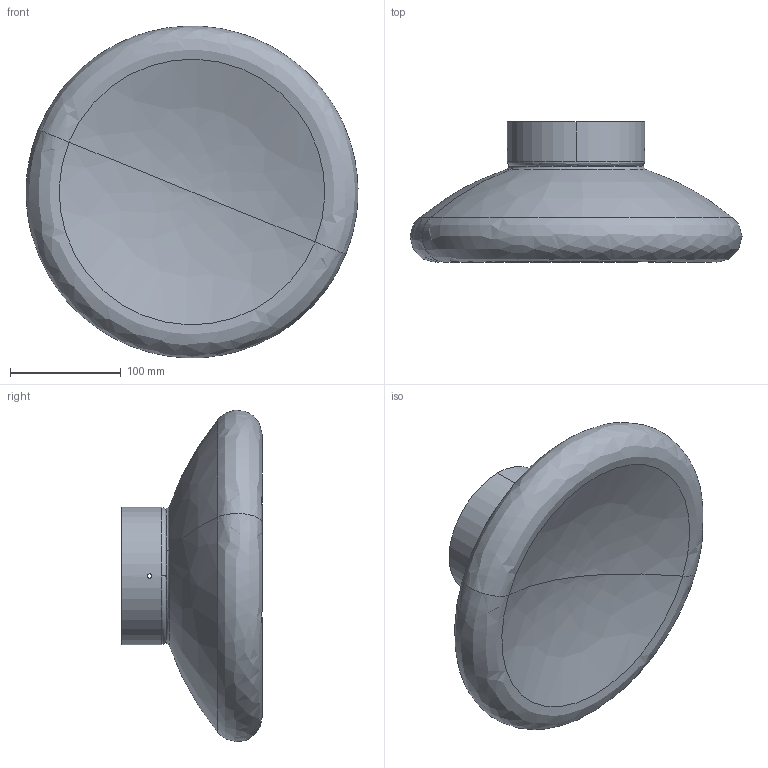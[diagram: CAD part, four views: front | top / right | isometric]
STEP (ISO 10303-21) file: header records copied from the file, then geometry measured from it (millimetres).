
FILE_DESCRIPTION (( 'STEP AP203' ), '1' );
FILE_NAME ('KEYRA_30P-PL_STEP.STEP', '2016-01-19T10:10:58', ( 'admin' ), ( '' ), 'SwSTEP 2.0', 'SolidWorks 2015', '' );
FILE_SCHEMA (( 'CONFIG_CONTROL_DESIGN' ));
Length unit declared in the file: millimetre
Products named in the file (2): KEYRA_30P-PL_STEP
Bounding box: 299.94 x 126.55 x 299.52 mm (x, y, z)
Volume: 1003679.2 mm3; surface area: 386500 mm2
Topology: 3 solids, 3 shells, 104 faces, 278 edges, 178 vertices
Faces by surface type: cylinder 56, plane 28, bspline 20
Entity records: 4693 total; most frequent: CARTESIAN_POINT 1938, ORIENTED_EDGE 548, DIRECTION 538, EDGE_CURVE 274, AXIS2_PLACEMENT_3D 210, VERTEX_POINT 178, EDGE_LOOP 144, CIRCLE 124
